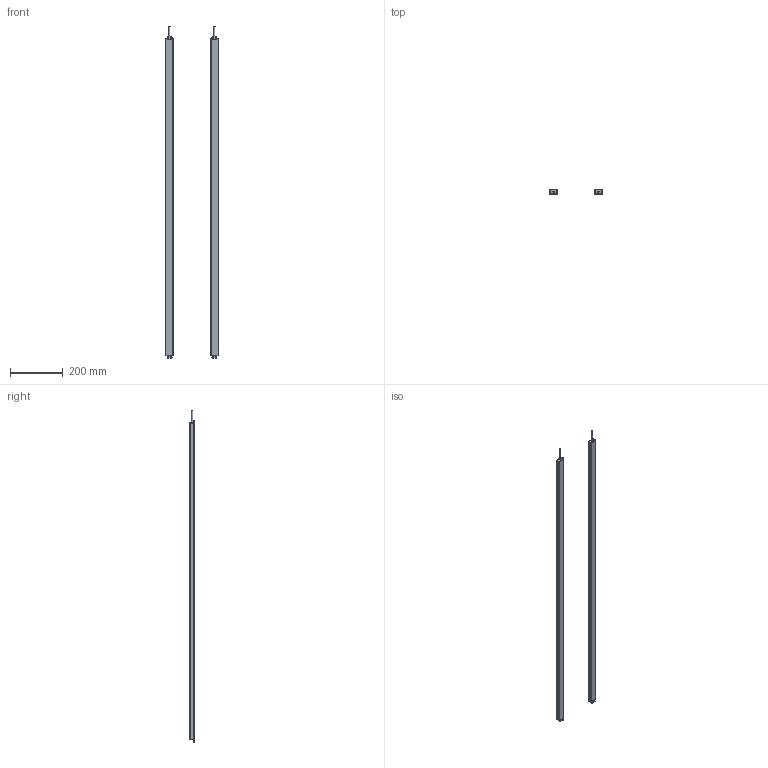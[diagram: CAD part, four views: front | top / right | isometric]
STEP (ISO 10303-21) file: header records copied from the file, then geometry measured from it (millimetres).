
FILE_DESCRIPTION(/* description */ (''),/* implementation_level */ '2;1');
FILE_NAME(/* name */ '6020（16X30ZW).stp',/* time_stamp */ '2023-10-23T10:46:01+08:00',/* author */ (''),/* organization */ (''),/* preprocessor_version */ 'ST-DEVELOPER v16.7',/* originating_system */ 'SIEMENS PLM Software NX 12.0',/* authorisation */ '');
FILE_SCHEMA (('AP203_CONFIGURATION_CONTROLLED_3D_DESIGN_OF_MECHANICAL_PARTS_AND_ASSEMBLIES_MIM_LF { 1 0 10303 403 2 1 2}'));
Length unit declared in the file: millimetre
Products named in the file (1): 4020（16X30ZW__stp
Bounding box: 200 x 16 x 1261.5 mm (x, y, z)
Volume: 343298.9 mm3; surface area: 506031.3 mm2
Topology: 10 solids, 10 shells, 296 faces, 830 edges, 554 vertices
Faces by surface type: plane 160, cylinder 136
Full cylindrical faces by diameter (mm): 5 x2
Entity records: 9825 total; most frequent: DIRECTION 1692, CARTESIAN_POINT 1675, ORIENTED_EDGE 1652, EDGE_CURVE 826, AXIS2_PLACEMENT_3D 569, LINE 554, VECTOR 554, VERTEX_POINT 552
